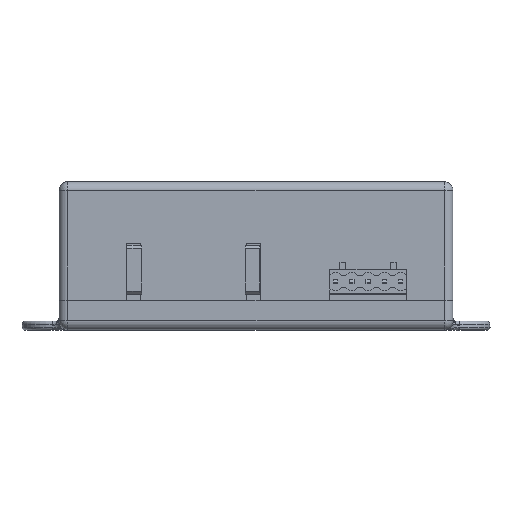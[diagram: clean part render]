
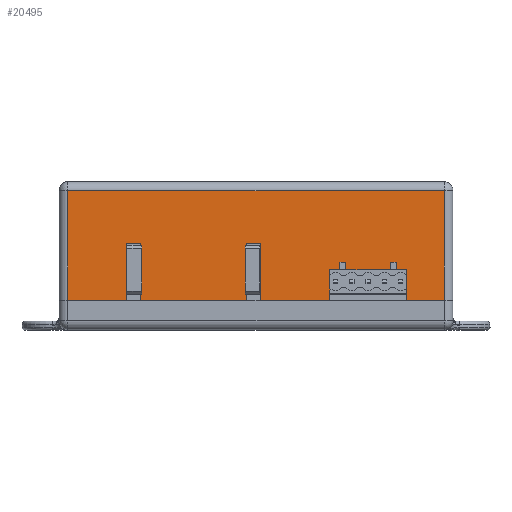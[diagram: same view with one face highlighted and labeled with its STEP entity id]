
A CAD part, top view. The second image highlights one B-rep face of the part: STEP entity #20495.
In plain terms, the highlighted planar face has unit normal (0, 0, 1).
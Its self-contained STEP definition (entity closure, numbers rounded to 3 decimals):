
#10851=DIRECTION('',(0.,-1.,0.));
#10852=VECTOR('',#10851,19.);
#10853=CARTESIAN_POINT('',(-1.65,40.,46.65));
#10854=LINE('',#10853,#10852);
#10855=DIRECTION('',(0.,-1.,0.));
#10856=VECTOR('',#10855,19.);
#10857=CARTESIAN_POINT('',(3.35,40.,46.65));
#10858=LINE('',#10857,#10856);
#10859=DIRECTION('',(0.,-1.,0.));
#10860=VECTOR('',#10859,19.);
#10861=CARTESIAN_POINT('',(38.85,40.,46.65));
#10862=LINE('',#10861,#10860);
#10863=DIRECTION('',(0.,-1.,0.));
#10864=VECTOR('',#10863,19.);
#10865=CARTESIAN_POINT('',(43.85,40.,46.65));
#10866=LINE('',#10865,#10864);
#10867=DIRECTION('',(0.,-1.,0.));
#10868=VECTOR('',#10867,37.);
#10869=CARTESIAN_POINT('',(63.5,40.,46.65));
#10870=LINE('',#10869,#10868);
#10871=DIRECTION('',(-1.,0.,0.));
#10872=VECTOR('',#10871,127.);
#10873=CARTESIAN_POINT('',(63.5,3.,46.65));
#10874=LINE('',#10873,#10872);
#10875=DIRECTION('',(0.,-1.,0.));
#10876=VECTOR('',#10875,37.);
#10877=CARTESIAN_POINT('',(-63.5,40.,46.65));
#10878=LINE('',#10877,#10876);
#10879=DIRECTION('',(1.,0.,0.));
#10880=VECTOR('',#10879,3.5);
#10881=CARTESIAN_POINT('',(-50.85,29.7,46.65));
#10882=LINE('',#10881,#10880);
#10883=DIRECTION('',(0.,-1.,0.));
#10884=VECTOR('',#10883,2.5);
#10885=CARTESIAN_POINT('',(-47.35,29.7,46.65));
#10886=LINE('',#10885,#10884);
#10887=DIRECTION('',(1.,0.,0.));
#10888=VECTOR('',#10887,2.);
#10889=CARTESIAN_POINT('',(-47.35,27.2,46.65));
#10890=LINE('',#10889,#10888);
#10891=DIRECTION('',(0.,1.,0.));
#10892=VECTOR('',#10891,2.5);
#10893=CARTESIAN_POINT('',(-45.35,27.2,46.65));
#10894=LINE('',#10893,#10892);
#10895=DIRECTION('',(1.,0.,0.));
#10896=VECTOR('',#10895,15.);
#10897=CARTESIAN_POINT('',(-45.35,29.7,46.65));
#10898=LINE('',#10897,#10896);
#10899=DIRECTION('',(0.,-1.,0.));
#10900=VECTOR('',#10899,2.5);
#10901=CARTESIAN_POINT('',(-30.35,29.7,46.65));
#10902=LINE('',#10901,#10900);
#10903=DIRECTION('',(1.,0.,0.));
#10904=VECTOR('',#10903,2.);
#10905=CARTESIAN_POINT('',(-30.35,27.2,46.65));
#10906=LINE('',#10905,#10904);
#10907=DIRECTION('',(0.,1.,0.));
#10908=VECTOR('',#10907,2.5);
#10909=CARTESIAN_POINT('',(-28.35,27.2,46.65));
#10910=LINE('',#10909,#10908);
#10911=DIRECTION('',(1.,0.,0.));
#10912=VECTOR('',#10911,3.5);
#10913=CARTESIAN_POINT('',(-28.35,29.7,46.65));
#10914=LINE('',#10913,#10912);
#10919=DIRECTION('',(1.,0.,0.));
#10920=VECTOR('',#10919,35.5);
#10921=CARTESIAN_POINT('',(3.35,40.,46.65));
#10922=LINE('',#10921,#10920);
#10935=DIRECTION('',(1.,0.,0.));
#10936=VECTOR('',#10935,23.2);
#10937=CARTESIAN_POINT('',(-24.85,40.,46.65));
#10938=LINE('',#10937,#10936);
#10995=DIRECTION('',(1.,0.,0.));
#10996=VECTOR('',#10995,12.65);
#10997=CARTESIAN_POINT('',(-63.5,40.,46.65));
#10998=LINE('',#10997,#10996);
#11031=DIRECTION('',(1.,0.,0.));
#11032=VECTOR('',#11031,19.65);
#11033=CARTESIAN_POINT('',(43.85,40.,46.65));
#11034=LINE('',#11033,#11032);
#11067=DIRECTION('',(-1.,0.,0.));
#11068=VECTOR('',#11067,5.);
#11069=CARTESIAN_POINT('',(3.35,21.,46.65));
#11070=LINE('',#11069,#11068);
#15474=DIRECTION('',(0.,-1.,0.));
#15475=VECTOR('',#15474,10.3);
#15476=CARTESIAN_POINT('',(-24.85,40.,46.65));
#15477=LINE('',#15476,#15475);
#15510=DIRECTION('',(0.,1.,0.));
#15511=VECTOR('',#15510,10.3);
#15512=CARTESIAN_POINT('',(-50.85,29.7,46.65));
#15513=LINE('',#15512,#15511);
#15530=DIRECTION('',(-1.,0.,0.));
#15531=VECTOR('',#15530,5.);
#15532=CARTESIAN_POINT('',(43.85,21.,46.65));
#15533=LINE('',#15532,#15531);
#17565=CARTESIAN_POINT('',(-63.5,40.,46.65));
#17567=VERTEX_POINT('',#17565);
#17568=CARTESIAN_POINT('',(63.5,40.,46.65));
#17570=VERTEX_POINT('',#17568);
#17660=CARTESIAN_POINT('',(38.85,40.,46.65));
#17662=VERTEX_POINT('',#17660);
#17664=CARTESIAN_POINT('',(3.35,40.,46.65));
#17666=VERTEX_POINT('',#17664);
#17668=CARTESIAN_POINT('',(38.85,21.,46.65));
#17669=VERTEX_POINT('',#17668);
#17670=CARTESIAN_POINT('',(3.35,21.,46.65));
#17671=VERTEX_POINT('',#17670);
#17684=CARTESIAN_POINT('',(-50.85,40.,46.65));
#17685=VERTEX_POINT('',#17684);
#17690=CARTESIAN_POINT('',(-24.85,40.,46.65));
#17692=VERTEX_POINT('',#17690);
#17704=CARTESIAN_POINT('',(-50.85,29.7,46.65));
#17705=VERTEX_POINT('',#17704);
#17706=CARTESIAN_POINT('',(-24.85,29.7,46.65));
#17707=VERTEX_POINT('',#17706);
#17708=CARTESIAN_POINT('',(-47.35,29.7,46.65));
#17709=CARTESIAN_POINT('',(-47.35,27.2,46.65));
#17710=VERTEX_POINT('',#17708);
#17711=VERTEX_POINT('',#17709);
#17712=CARTESIAN_POINT('',(-45.35,27.2,46.65));
#17713=VERTEX_POINT('',#17712);
#17714=CARTESIAN_POINT('',(-45.35,29.7,46.65));
#17715=VERTEX_POINT('',#17714);
#17716=CARTESIAN_POINT('',(-30.35,29.7,46.65));
#17717=CARTESIAN_POINT('',(-30.35,27.2,46.65));
#17718=VERTEX_POINT('',#17716);
#17719=VERTEX_POINT('',#17717);
#17720=CARTESIAN_POINT('',(-28.35,27.2,46.65));
#17721=VERTEX_POINT('',#17720);
#17722=CARTESIAN_POINT('',(-28.35,29.7,46.65));
#17723=VERTEX_POINT('',#17722);
#17820=CARTESIAN_POINT('',(-63.5,3.,46.65));
#17822=VERTEX_POINT('',#17820);
#17842=CARTESIAN_POINT('',(63.5,3.,46.65));
#17843=VERTEX_POINT('',#17842);
#19590=CARTESIAN_POINT('',(-1.65,40.,46.65));
#19592=VERTEX_POINT('',#19590);
#19594=CARTESIAN_POINT('',(43.85,40.,46.65));
#19596=VERTEX_POINT('',#19594);
#19598=CARTESIAN_POINT('',(-1.65,21.,46.65));
#19599=VERTEX_POINT('',#19598);
#19600=CARTESIAN_POINT('',(43.85,21.,46.65));
#19601=VERTEX_POINT('',#19600);
#20441=CARTESIAN_POINT('',(-66.5,0.,46.65));
#20442=DIRECTION('',(0.,0.,1.));
#20443=DIRECTION('',(1.,0.,0.));
#20444=AXIS2_PLACEMENT_3D('',#20441,#20442,#20443);
#20445=PLANE('',#20444);
#20447=ORIENTED_EDGE('',*,*,#20446,.T.);
#20449=ORIENTED_EDGE('',*,*,#20448,.F.);
#20451=ORIENTED_EDGE('',*,*,#20450,.F.);
#20453=ORIENTED_EDGE('',*,*,#20452,.T.);
#20455=ORIENTED_EDGE('',*,*,#20454,.T.);
#20457=ORIENTED_EDGE('',*,*,#20456,.F.);
#20459=ORIENTED_EDGE('',*,*,#20458,.F.);
#20461=ORIENTED_EDGE('',*,*,#20460,.T.);
#20462=ORIENTED_EDGE('',*,*,#20433,.T.);
#20464=ORIENTED_EDGE('',*,*,#20463,.T.);
#20466=ORIENTED_EDGE('',*,*,#20465,.F.);
#20468=ORIENTED_EDGE('',*,*,#20467,.T.);
#20470=ORIENTED_EDGE('',*,*,#20469,.F.);
#20472=ORIENTED_EDGE('',*,*,#20471,.T.);
#20474=ORIENTED_EDGE('',*,*,#20473,.T.);
#20476=ORIENTED_EDGE('',*,*,#20475,.T.);
#20478=ORIENTED_EDGE('',*,*,#20477,.T.);
#20480=ORIENTED_EDGE('',*,*,#20479,.T.);
#20482=ORIENTED_EDGE('',*,*,#20481,.T.);
#20484=ORIENTED_EDGE('',*,*,#20483,.T.);
#20486=ORIENTED_EDGE('',*,*,#20485,.T.);
#20488=ORIENTED_EDGE('',*,*,#20487,.T.);
#20490=ORIENTED_EDGE('',*,*,#20489,.F.);
#20492=ORIENTED_EDGE('',*,*,#20491,.T.);
#20493=EDGE_LOOP('',(#20447,#20449,#20451,#20453,#20455,#20457,#20459,#20461,
#20462,#20464,#20466,#20468,#20470,#20472,#20474,#20476,#20478,#20480,#20482,
#20484,#20486,#20488,#20490,#20492));
#20494=FACE_OUTER_BOUND('',#20493,.F.);
#20433=EDGE_CURVE('',#17570,#17843,#10870,.T.);
#20446=EDGE_CURVE('',#19592,#19599,#10854,.T.);
#20448=EDGE_CURVE('',#17671,#19599,#11070,.T.);
#20450=EDGE_CURVE('',#17666,#17671,#10858,.T.);
#20452=EDGE_CURVE('',#17666,#17662,#10922,.T.);
#20454=EDGE_CURVE('',#17662,#17669,#10862,.T.);
#20456=EDGE_CURVE('',#19601,#17669,#15533,.T.);
#20458=EDGE_CURVE('',#19596,#19601,#10866,.T.);
#20460=EDGE_CURVE('',#19596,#17570,#11034,.T.);
#20463=EDGE_CURVE('',#17843,#17822,#10874,.T.);
#20465=EDGE_CURVE('',#17567,#17822,#10878,.T.);
#20467=EDGE_CURVE('',#17567,#17685,#10998,.T.);
#20469=EDGE_CURVE('',#17705,#17685,#15513,.T.);
#20471=EDGE_CURVE('',#17705,#17710,#10882,.T.);
#20473=EDGE_CURVE('',#17710,#17711,#10886,.T.);
#20475=EDGE_CURVE('',#17711,#17713,#10890,.T.);
#20477=EDGE_CURVE('',#17713,#17715,#10894,.T.);
#20479=EDGE_CURVE('',#17715,#17718,#10898,.T.);
#20481=EDGE_CURVE('',#17718,#17719,#10902,.T.);
#20483=EDGE_CURVE('',#17719,#17721,#10906,.T.);
#20485=EDGE_CURVE('',#17721,#17723,#10910,.T.);
#20487=EDGE_CURVE('',#17723,#17707,#10914,.T.);
#20489=EDGE_CURVE('',#17692,#17707,#15477,.T.);
#20491=EDGE_CURVE('',#17692,#19592,#10938,.T.);
#20495=ADVANCED_FACE('',(#20494),#20445,.T.);
